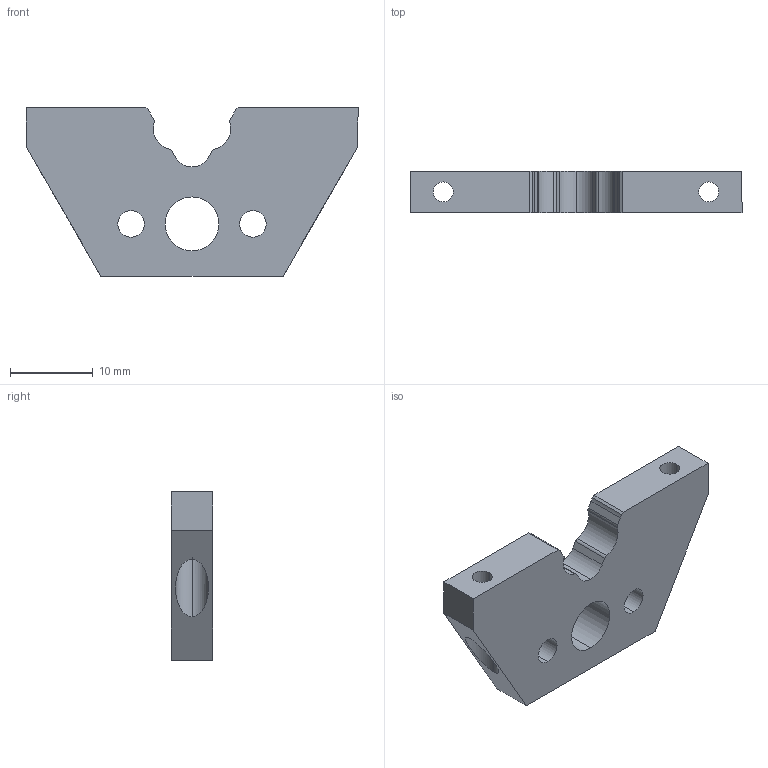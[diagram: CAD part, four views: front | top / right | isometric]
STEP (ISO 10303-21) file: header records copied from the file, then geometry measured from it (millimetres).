
FILE_DESCRIPTION (( 'STEP AP214' ), '1' );
FILE_NAME ('TRL-0054-A.STEP', '2021-06-29T01:15:24', ( '' ), ( '' ), 'SwSTEP 2.0', 'SolidWorks 2016', '' );
FILE_SCHEMA (( 'AUTOMOTIVE_DESIGN' ));
Length unit declared in the file: millimetre
Products named in the file (1): TRL-0054-A
Bounding box: 40 x 5 x 20.29 mm (x, y, z)
Volume: 2653 mm3; surface area: 2104.8 mm2
Topology: 1 solids, 1 shells, 41 faces, 111 edges, 74 vertices
Faces by surface type: cylinder 24, plane 17
Entity records: 1363 total; most frequent: CARTESIAN_POINT 239, DIRECTION 235, ORIENTED_EDGE 222, EDGE_CURVE 111, AXIS2_PLACEMENT_3D 86, VERTEX_POINT 74, VECTOR 63, LINE 63
